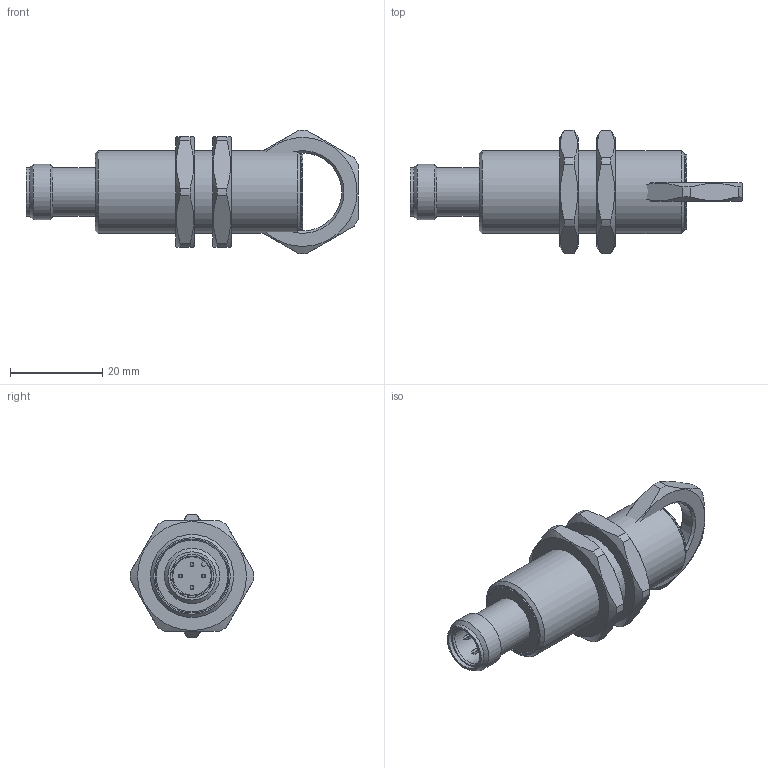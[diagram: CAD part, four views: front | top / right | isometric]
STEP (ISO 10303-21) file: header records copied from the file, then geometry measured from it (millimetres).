
FILE_DESCRIPTION( ( 'Unknown' ), '1' );
FILE_NAME( '//baumerholding.org/frauenfeld/bereich/BECH/Services/me_CAD/Solid Edge/Models/Dokumentationen/Induktiv/IxRx 18/Vereinfachte Modelle/Neutralformate/IWRM 18x9704_S14.stp', 'Unknown', ( 'Unknown' ), ( 'Unknown' ), 'XStep 1.0', 'Unknown', ' ' );
FILE_SCHEMA( ( 'CONFIG_CONTROL_DESIGN' ) );
Length unit declared in the file: millimetre
Products named in the file (3): Assem1; IWRM 18x9704_S14_oA; 101474
Bounding box: 72 x 26.8 x 26.8 mm (x, y, z)
Volume: 27680.9 mm3; surface area: 10941.4 mm2
Topology: 5 solids, 5 shells, 247 faces, 631 edges, 412 vertices
Faces by surface type: plane 148, cylinder 71, cone 28
Full cylindrical faces by diameter (mm): 9.45 x2, 10.45 x4, 12 x2, 15.5 x2, 16.4 x2, 16.917 x3, 18 x2
Entity records: 3562 total; most frequent: CARTESIAN_POINT 703, DIRECTION 574, ORIENTED_EDGE 534, EDGE_CURVE 267, AXIS2_PLACEMENT_3D 201, VERTEX_POINT 186, LINE 172, VECTOR 172
